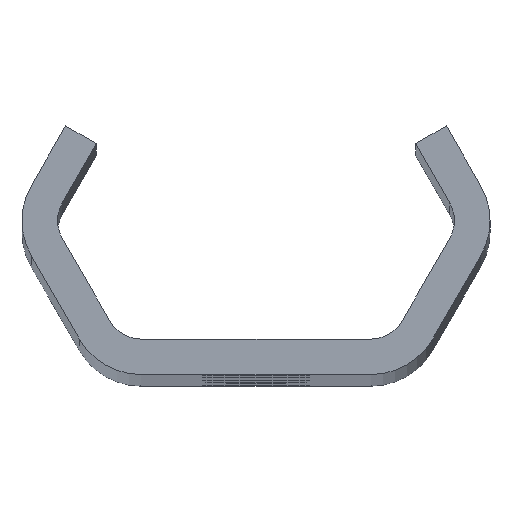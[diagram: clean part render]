
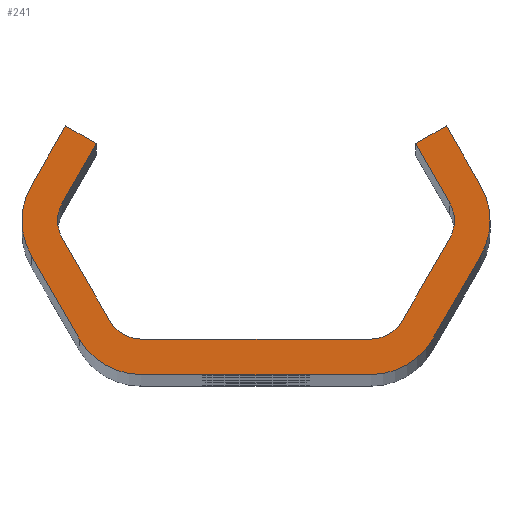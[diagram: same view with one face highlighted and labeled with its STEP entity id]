
A CAD part, top view. The second image highlights one B-rep face of the part: STEP entity #241.
In plain terms, the highlighted planar face has unit normal (0, 0, 1).
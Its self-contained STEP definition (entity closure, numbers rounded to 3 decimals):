
#241=ADVANCED_FACE('NONE',(#624),#625,.F.);
#624=FACE_OUTER_BOUND('',#1818,.T.);
#625=PLANE('',#1819);
#1818=EDGE_LOOP('',(#3611,#3612,#3613,#3614,#3615,#3616,#3617,#3618,#3619,#3620,#3621,#3622,#3623,#3624,#3625,#3626,#3627,#3628,#3629,#3630,#3631,#3632,#3633,#3634));
#1819=AXIS2_PLACEMENT_3D('',#3635,#3636,#3637);
#3611=ORIENTED_EDGE('',*,*,#4853,.T.);
#3612=ORIENTED_EDGE('',*,*,#4871,.T.);
#3613=ORIENTED_EDGE('',*,*,#4726,.T.);
#3614=ORIENTED_EDGE('',*,*,#4855,.T.);
#3615=ORIENTED_EDGE('',*,*,#4872,.T.);
#3616=ORIENTED_EDGE('',*,*,#4859,.T.);
#3617=ORIENTED_EDGE('',*,*,#4873,.T.);
#3618=ORIENTED_EDGE('',*,*,#4733,.T.);
#3619=ORIENTED_EDGE('',*,*,#4874,.T.);
#3620=ORIENTED_EDGE('',*,*,#4644,.T.);
#3621=ORIENTED_EDGE('',*,*,#4736,.T.);
#3622=ORIENTED_EDGE('',*,*,#4742,.T.);
#3623=ORIENTED_EDGE('',*,*,#4745,.T.);
#3624=ORIENTED_EDGE('',*,*,#4723,.T.);
#3625=ORIENTED_EDGE('',*,*,#4875,.T.);
#3626=ORIENTED_EDGE('',*,*,#4747,.T.);
#3627=ORIENTED_EDGE('',*,*,#4876,.T.);
#3628=ORIENTED_EDGE('',*,*,#4754,.T.);
#3629=ORIENTED_EDGE('',*,*,#4877,.T.);
#3630=ORIENTED_EDGE('',*,*,#4840,.T.);
#3631=ORIENTED_EDGE('',*,*,#4878,.T.);
#3632=ORIENTED_EDGE('',*,*,#4639,.T.);
#3633=ORIENTED_EDGE('',*,*,#4843,.T.);
#3634=ORIENTED_EDGE('',*,*,#4849,.T.);
#3635=CARTESIAN_POINT('',(0.0,0.0,560.0));
#3636=DIRECTION('',(0.0,0.0,-1.0));
#3637=DIRECTION('',(0.0,-1.0,0.0));
#4639=EDGE_CURVE('NONE',#5194,#5198,#5200,.T.);
#4644=EDGE_CURVE('NONE',#5203,#5207,#5209,.T.);
#4723=EDGE_CURVE('NONE',#5351,#5349,#5352,.T.);
#4726=EDGE_CURVE('NONE',#5355,#5356,#5357,.T.);
#4733=EDGE_CURVE('NONE',#5369,#5367,#5370,.T.);
#4736=EDGE_CURVE('NONE',#5207,#5373,#5374,.T.);
#4742=EDGE_CURVE('NONE',#5373,#5381,#5383,.T.);
#4745=EDGE_CURVE('NONE',#5381,#5351,#5386,.T.);
#4747=EDGE_CURVE('NONE',#5388,#5389,#5390,.T.);
#4754=EDGE_CURVE('NONE',#5402,#5400,#5403,.T.);
#4840=EDGE_CURVE('NONE',#5562,#5560,#5563,.T.);
#4843=EDGE_CURVE('NONE',#5198,#5566,#5567,.T.);
#4849=EDGE_CURVE('NONE',#5566,#5574,#5576,.T.);
#4853=EDGE_CURVE('NONE',#5574,#5580,#5582,.T.);
#4855=EDGE_CURVE('NONE',#5356,#5584,#5585,.T.);
#4859=EDGE_CURVE('NONE',#5590,#5591,#5592,.T.);
#4871=EDGE_CURVE('NONE',#5580,#5355,#5606,.T.);
#4872=EDGE_CURVE('NONE',#5584,#5590,#5607,.T.);
#4873=EDGE_CURVE('NONE',#5591,#5369,#5608,.T.);
#4874=EDGE_CURVE('NONE',#5367,#5203,#5609,.T.);
#4875=EDGE_CURVE('NONE',#5349,#5388,#5610,.T.);
#4876=EDGE_CURVE('NONE',#5389,#5402,#5611,.T.);
#4877=EDGE_CURVE('NONE',#5400,#5562,#5612,.T.);
#4878=EDGE_CURVE('NONE',#5560,#5194,#5613,.T.);
#5194=VERTEX_POINT('',#6019);
#5198=VERTEX_POINT('NONE',#6024);
#5200=CIRCLE('',#6027,3.0);
#5203=VERTEX_POINT('',#6030);
#5207=VERTEX_POINT('NONE',#6035);
#5209=CIRCLE('',#6038,6.0);
#5349=VERTEX_POINT('NONE',#6892);
#5351=VERTEX_POINT('NONE',#6895);
#5352=CIRCLE('',#6896,3.0);
#5355=VERTEX_POINT('NONE',#6900);
#5356=VERTEX_POINT('NONE',#6901);
#5357=CIRCLE('',#6902,6.0);
#5367=VERTEX_POINT('NONE',#6915);
#5369=VERTEX_POINT('NONE',#6918);
#5370=LINE('',#6919,#6920);
#5373=VERTEX_POINT('NONE',#6924);
#5374=LINE('',#6925,#6926);
#5381=VERTEX_POINT('NONE',#6936);
#5383=LINE('',#6939,#6940);
#5386=LINE('',#6944,#6945);
#5388=VERTEX_POINT('NONE',#6947);
#5389=VERTEX_POINT('NONE',#6948);
#5390=LINE('',#6949,#6950);
#5400=VERTEX_POINT('NONE',#6964);
#5402=VERTEX_POINT('NONE',#6967);
#5403=LINE('',#6968,#6969);
#5560=VERTEX_POINT('NONE',#7528);
#5562=VERTEX_POINT('NONE',#7531);
#5563=LINE('',#7532,#7533);
#5566=VERTEX_POINT('NONE',#7537);
#5567=LINE('',#7538,#7539);
#5574=VERTEX_POINT('NONE',#7549);
#5576=LINE('',#7552,#7553);
#5580=VERTEX_POINT('NONE',#7558);
#5582=LINE('',#7561,#7562);
#5584=VERTEX_POINT('NONE',#7564);
#5585=LINE('',#7565,#7566);
#5590=VERTEX_POINT('NONE',#7573);
#5591=VERTEX_POINT('NONE',#7574);
#5592=LINE('',#7575,#7576);
#5606=CIRCLE('',#7593,6.0);
#5607=CIRCLE('',#7594,6.0);
#5608=CIRCLE('',#7595,6.0);
#5609=CIRCLE('',#7596,6.0);
#5610=CIRCLE('',#7597,3.0);
#5611=CIRCLE('',#7598,3.0);
#5612=CIRCLE('',#7599,3.0);
#5613=CIRCLE('',#7600,3.0);
#6019=CARTESIAN_POINT('',(-16.764,0.,560.0));
#6024=CARTESIAN_POINT('',(-16.362,1.5,560.0));
#6027=AXIS2_PLACEMENT_3D('',#8909,#8910,#8911);
#6030=CARTESIAN_POINT('',(19.764,0.,560.0));
#6035=CARTESIAN_POINT('',(18.96,3.,560.0));
#6038=AXIS2_PLACEMENT_3D('',#8917,#8918,#8919);
#6892=CARTESIAN_POINT('',(16.764,0.,560.0));
#6895=CARTESIAN_POINT('',(16.362,1.5,560.0));
#6896=AXIS2_PLACEMENT_3D('',#8996,#8997,#8998);
#6900=CARTESIAN_POINT('',(-19.764,0.,560.0));
#6901=CARTESIAN_POINT('',(-18.96,-3.,560.0));
#6902=AXIS2_PLACEMENT_3D('',#9000,#9001,#9002);
#6915=CARTESIAN_POINT('',(18.96,-3.,560.0));
#6918=CARTESIAN_POINT('',(14.919,-10.,560.0));
#6919=CARTESIAN_POINT('',(20.692,0.,560.0));
#6920=VECTOR('',#9010,1000.0);
#6924=CARTESIAN_POINT('',(16.074,8.,560.0));
#6925=CARTESIAN_POINT('',(16.074,8.,560.0));
#6926=VECTOR('',#9012,1000.0);
#6936=CARTESIAN_POINT('',(13.475,6.5,560.0));
#6939=CARTESIAN_POINT('',(13.475,6.5,560.0));
#6940=VECTOR('',#9017,1000.0);
#6944=CARTESIAN_POINT('',(17.228,0.,560.0));
#6945=VECTOR('',#9019,1000.0);
#6947=CARTESIAN_POINT('',(16.362,-1.5,560.0));
#6948=CARTESIAN_POINT('',(12.321,-8.5,560.0));
#6949=CARTESIAN_POINT('',(11.455,-10.0,560.0));
#6950=VECTOR('',#9020,1000.0);
#6964=CARTESIAN_POINT('',(-9.723,-10.0,560.0));
#6967=CARTESIAN_POINT('',(9.723,-10.0,560.0));
#6968=CARTESIAN_POINT('',(-11.455,-10.0,560.0));
#6969=VECTOR('',#9026,1000.0);
#7528=CARTESIAN_POINT('',(-16.362,-1.5,560.0));
#7531=CARTESIAN_POINT('',(-12.321,-8.5,560.0));
#7532=CARTESIAN_POINT('',(-17.228,0.,560.0));
#7533=VECTOR('',#9117,1000.0);
#7537=CARTESIAN_POINT('',(-13.475,6.5,560.0));
#7538=CARTESIAN_POINT('',(-13.475,6.5,560.0));
#7539=VECTOR('',#9119,1000.0);
#7549=CARTESIAN_POINT('',(-16.074,8.,560.0));
#7552=CARTESIAN_POINT('',(-13.475,6.5,560.0));
#7553=VECTOR('',#9124,1000.0);
#7558=CARTESIAN_POINT('',(-18.96,3.,560.0));
#7561=CARTESIAN_POINT('',(-16.074,8.,560.0));
#7562=VECTOR('',#9127,1000.0);
#7564=CARTESIAN_POINT('',(-14.919,-10.,560.0));
#7565=CARTESIAN_POINT('',(-20.692,0.,560.0));
#7566=VECTOR('',#9128,1000.0);
#7573=CARTESIAN_POINT('',(-9.723,-13.0,560.0));
#7574=CARTESIAN_POINT('',(9.723,-13.0,560.0));
#7575=CARTESIAN_POINT('',(-13.187,-13.0,560.0));
#7576=VECTOR('',#9131,1000.0);
#7593=AXIS2_PLACEMENT_3D('',#9156,#9157,#9158);
#7594=AXIS2_PLACEMENT_3D('',#9159,#9160,#9161);
#7595=AXIS2_PLACEMENT_3D('',#9162,#9163,#9164);
#7596=AXIS2_PLACEMENT_3D('',#9165,#9166,#9167);
#7597=AXIS2_PLACEMENT_3D('',#9168,#9169,#9170);
#7598=AXIS2_PLACEMENT_3D('',#9171,#9172,#9173);
#7599=AXIS2_PLACEMENT_3D('',#9174,#9175,#9176);
#7600=AXIS2_PLACEMENT_3D('',#9177,#9178,#9179);
#8909=CARTESIAN_POINT('',(-13.764,0.,560.0));
#8910=DIRECTION('',(0.0,0.0,-1.0));
#8911=DIRECTION('',(-1.0,0.0,0.0));
#8917=CARTESIAN_POINT('',(13.764,0.,560.0));
#8918=DIRECTION('',(0.0,0.0,1.0));
#8919=DIRECTION('',(-1.0,0.0,0.0));
#8996=CARTESIAN_POINT('',(13.764,0.,560.0));
#8997=DIRECTION('',(0.0,0.0,-1.0));
#8998=DIRECTION('',(-1.0,0.0,0.0));
#9000=CARTESIAN_POINT('',(-13.764,0.,560.0));
#9001=DIRECTION('',(0.0,0.0,1.0));
#9002=DIRECTION('',(-1.0,0.0,0.0));
#9010=DIRECTION('',(0.5,0.866,-0.0));
#9012=DIRECTION('',(-0.5,0.866,-0.0));
#9017=DIRECTION('',(-0.866,-0.5,-0.0));
#9019=DIRECTION('',(0.5,-0.866,-0.0));
#9020=DIRECTION('',(-0.5,-0.866,-0.0));
#9026=DIRECTION('',(-1.0,0.,-0.0));
#9117=DIRECTION('',(-0.5,0.866,-0.0));
#9119=DIRECTION('',(0.5,0.866,-0.0));
#9124=DIRECTION('',(-0.866,0.5,0.0));
#9127=DIRECTION('',(-0.5,-0.866,0.0));
#9128=DIRECTION('',(0.5,-0.866,0.0));
#9131=DIRECTION('',(1.0,0.0,0.0));
#9156=CARTESIAN_POINT('',(-13.764,0.,560.0));
#9157=DIRECTION('',(0.0,0.0,1.0));
#9158=DIRECTION('',(-1.0,0.,0.0));
#9159=CARTESIAN_POINT('',(-9.723,-7.0,560.0));
#9160=DIRECTION('',(0.0,0.0,1.0));
#9161=DIRECTION('',(-1.0,0.0,0.0));
#9162=CARTESIAN_POINT('',(9.723,-7.0,560.0));
#9163=DIRECTION('',(0.0,0.0,1.0));
#9164=DIRECTION('',(-1.0,0.,0.0));
#9165=CARTESIAN_POINT('',(13.764,0.,560.0));
#9166=DIRECTION('',(0.0,0.0,1.0));
#9167=DIRECTION('',(-1.0,0.0,0.0));
#9168=CARTESIAN_POINT('',(13.764,0.,560.0));
#9169=DIRECTION('',(0.0,0.0,-1.0));
#9170=DIRECTION('',(-1.0,0.0,0.0));
#9171=CARTESIAN_POINT('',(9.723,-7.0,560.0));
#9172=DIRECTION('',(0.0,0.0,-1.0));
#9173=DIRECTION('',(-1.0,0.0,0.0));
#9174=CARTESIAN_POINT('',(-9.723,-7.0,560.0));
#9175=DIRECTION('',(0.0,0.0,-1.0));
#9176=DIRECTION('',(-1.0,0.0,0.0));
#9177=CARTESIAN_POINT('',(-13.764,0.,560.0));
#9178=DIRECTION('',(0.0,0.0,-1.0));
#9179=DIRECTION('',(-1.0,0.0,0.0));
